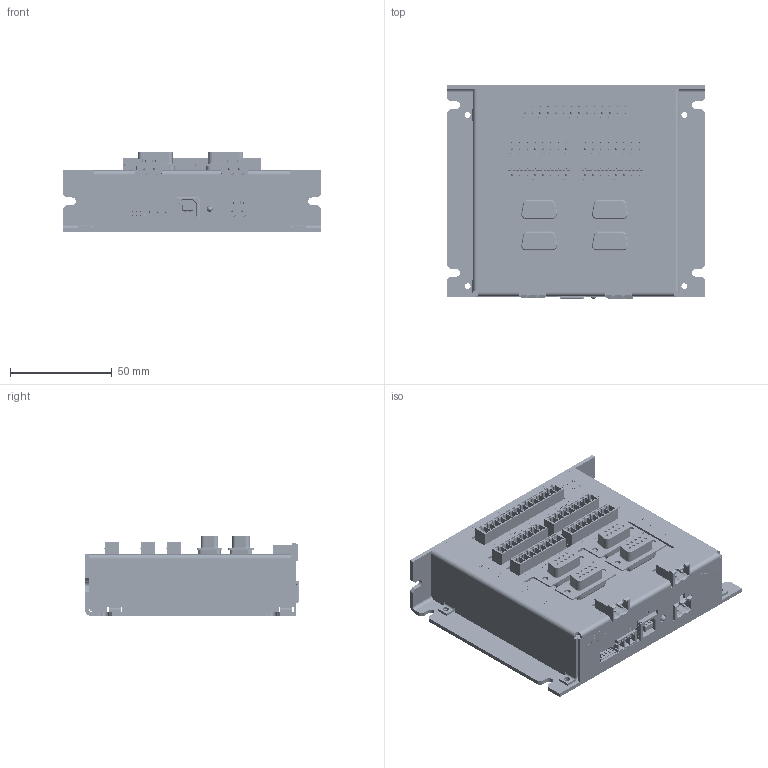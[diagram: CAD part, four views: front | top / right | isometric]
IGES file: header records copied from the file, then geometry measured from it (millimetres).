
Start section: SolidWorks IGES file using analytic representation for surfaces
Global section: file name: C:\Users\IEUser\Documents\Christine folder\Arcus\Project #26 PMX Drawings\PMX-4EX-SA-TB9\PMX-4EX-SA-TB9.IGS; native system: SolidWorks 2008; preprocessor: SolidWorks 2008; author: IEUser; date: 140702.225806; units: inch
Bounding box: 127 x 105.41 x 39.7 mm (x, y, z)
Surface area: 131203 mm2 (no closed solid volume)
Topology: 0 solids, 0 shells, 9396 faces, 73236 edges, 73139 vertices
Faces by surface type: bspline 8122, revolution 1274
